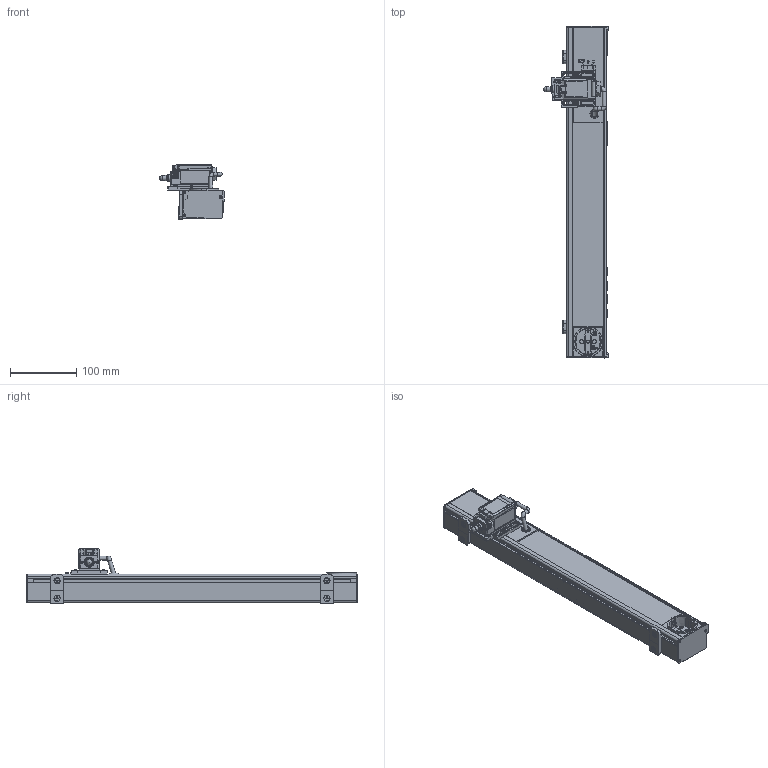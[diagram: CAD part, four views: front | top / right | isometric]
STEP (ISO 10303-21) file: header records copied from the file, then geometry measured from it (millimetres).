
FILE_DESCRIPTION(/* description */ (''),/* implementation_level */ '2;1');
FILE_NAME(/* name */ '\\File-richter.richter.local\konstruktion\Zeichnungsverwaltung\_Zeichnungen_und_3D_Kpl\500\Step Dxf\111754_LED-A-500-SK-PK-E-R-AX.stp',/* time_stamp */ '2023-10-27T12:50:28+02:00',/* author */ ('CAD'),/* organization */ (''),/* preprocessor_version */ 'ST-DEVELOPER v15.6',/* originating_system */ 'Autodesk Inventor 2015',/* authorisation */ '');
FILE_SCHEMA (('AUTOMOTIVE_DESIGN { 1 0 10303 214 3 1 1 }'));
Products named in the file (1): 111754_LED-A-500-SK-PK-E-R-AX_Shrinkwrap_1
Bounding box: 97.4 x 500 x 82.35 mm (x, y, z)
Surface area: 276853.7 mm2 (no closed solid volume)
Topology: 0 solids, 120 shells, 2737 faces, 10101 edges, 7413 vertices
Faces by surface type: plane 2099, cylinder 479, bspline 64, cone 59, sphere 33, torus 3
Full cylindrical faces by diameter (mm): 2.797 x1, 2.8 x2, 3.95 x2, 5.5 x1, 6 x4, 8 x1, 24 x1
Entity records: 110795 total; most frequent: CARTESIAN_POINT 24948, ORIENTED_EDGE 16814, DIRECTION 16362, EDGE_CURVE 10046, LINE 8060, VECTOR 8060, VERTEX_POINT 7405, AXIS2_PLACEMENT_3D 4151
